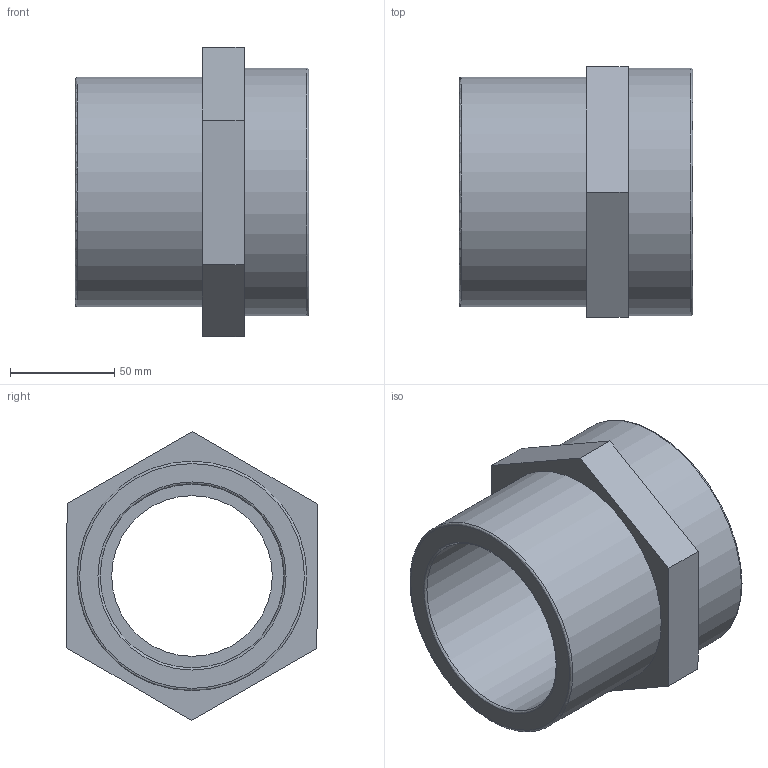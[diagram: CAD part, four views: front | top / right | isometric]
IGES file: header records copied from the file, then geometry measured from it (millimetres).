
Global section: file name: 050302110040.ipt; native system: Autodesk Inventor 2015; preprocessor: unknown; author: KIM; date: 20171207.164414; units: millimetre
Bounding box: 112 x 120.19 x 138.56 mm (x, y, z)
Volume: 365254.8 mm3; surface area: 89419.6 mm2
Topology: 1 solids, 1 shells, 21 faces, 55 edges, 40 vertices
Faces by surface type: plane 12, revolution 7, cylinder 2
Full cylindrical faces by diameter (mm): 110 x1, 118.8 x1
